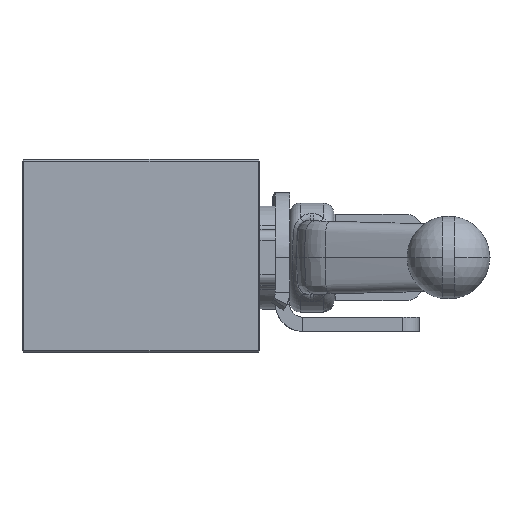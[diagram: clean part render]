
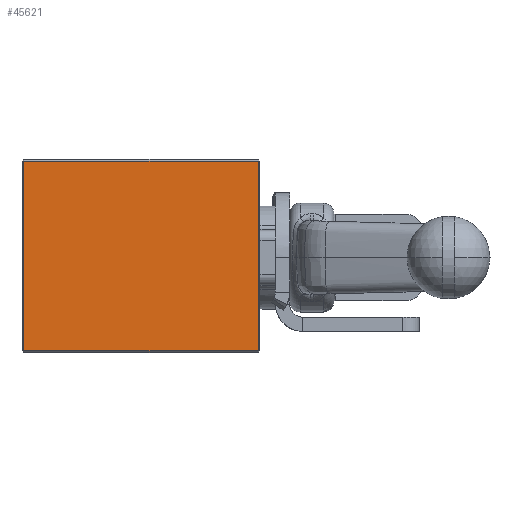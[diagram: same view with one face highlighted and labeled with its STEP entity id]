
A CAD part, front view. The second image highlights one B-rep face of the part: STEP entity #45621.
In plain terms, the highlighted planar face has unit normal (0, -1, 0).
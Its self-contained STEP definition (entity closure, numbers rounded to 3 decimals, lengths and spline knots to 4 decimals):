
#2492 = CARTESIAN_POINT ( 'NONE',  ( -0.2469, -0.0533, 3.4426 ) ) ;
#4444 = LINE ( 'NONE', #48352, #24837 ) ;
#5986 = VECTOR ( 'NONE', #34288, 39.3701 ) ;
#7936 = VERTEX_POINT ( 'NONE', #18669 ) ;
#8612 = PLANE ( 'NONE',  #15316 ) ;
#9134 = FACE_OUTER_BOUND ( 'NONE', #36455, .T. ) ;
#9392 = LINE ( 'NONE', #2492, #25424 ) ;
#9904 = LINE ( 'NONE', #14391, #5986 ) ;
#11594 = ORIENTED_EDGE ( 'NONE', *, *, #45923, .T. ) ;
#13594 = EDGE_CURVE ( 'NONE', #7936, #29845, #13765, .T. ) ;
#13631 = DIRECTION ( 'NONE',  ( 0., 0., -1. ) ) ;
#13765 = LINE ( 'NONE', #41091, #17791 ) ;
#14391 = CARTESIAN_POINT ( 'NONE',  ( -0.2669, -0.0533, 3.4226 ) ) ;
#15316 = AXIS2_PLACEMENT_3D ( 'NONE', #40434, #24750, #16300 ) ;
#16300 = DIRECTION ( 'NONE',  ( 0., 0., 1. ) ) ;
#17791 = VECTOR ( 'NONE', #29912, 39.3701 ) ;
#18669 = CARTESIAN_POINT ( 'NONE',  ( 2.4631, -0.0533, 1.2276 ) ) ;
#24210 = VERTEX_POINT ( 'NONE', #36023 ) ;
#24750 = DIRECTION ( 'NONE',  ( 0., 1., 0. ) ) ;
#24837 = VECTOR ( 'NONE', #36975, 39.3701 ) ;
#25424 = VECTOR ( 'NONE', #13631, 39.3701 ) ;
#29845 = VERTEX_POINT ( 'NONE', #37157 ) ;
#29912 = DIRECTION ( 'NONE',  ( 0., 0., 1. ) ) ;
#31092 = EDGE_CURVE ( 'NONE', #42805, #7936, #4444, .T. ) ;
#34288 = DIRECTION ( 'NONE',  ( -1., 0., 0. ) ) ;
#35774 = ORIENTED_EDGE ( 'NONE', *, *, #31092, .T. ) ;
#36023 = CARTESIAN_POINT ( 'NONE',  ( -0.2469, -0.0533, 3.4226 ) ) ;
#36455 = EDGE_LOOP ( 'NONE', ( #40989, #42745, #11594, #35774 ) ) ;
#36975 = DIRECTION ( 'NONE',  ( 1., 0., 0. ) ) ;
#37157 = CARTESIAN_POINT ( 'NONE',  ( 2.4631, -0.0533, 3.4226 ) ) ;
#40434 = CARTESIAN_POINT ( 'NONE',  ( -0.2669, -0.0533, 3.4426 ) ) ;
#40989 = ORIENTED_EDGE ( 'NONE', *, *, #13594, .T. ) ;
#41091 = CARTESIAN_POINT ( 'NONE',  ( 2.4631, -0.0533, 3.4426 ) ) ;
#42745 = ORIENTED_EDGE ( 'NONE', *, *, #45927, .T. ) ;
#42805 = VERTEX_POINT ( 'NONE', #50871 ) ;
#45621 = ADVANCED_FACE ( 'NONE', ( #9134 ), #8612, .F. ) ;
#45923 = EDGE_CURVE ( 'NONE', #24210, #42805, #9392, .T. ) ;
#45927 = EDGE_CURVE ( 'NONE', #29845, #24210, #9904, .T. ) ;
#48352 = CARTESIAN_POINT ( 'NONE',  ( 2.4831, -0.0533, 1.2276 ) ) ;
#50871 = CARTESIAN_POINT ( 'NONE',  ( -0.2469, -0.0533, 1.2276 ) ) ;
